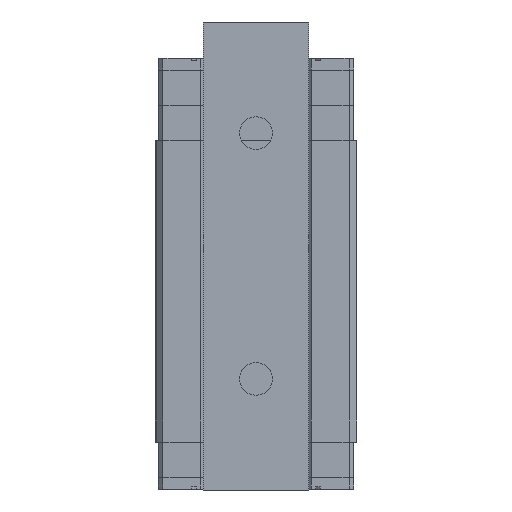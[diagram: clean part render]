
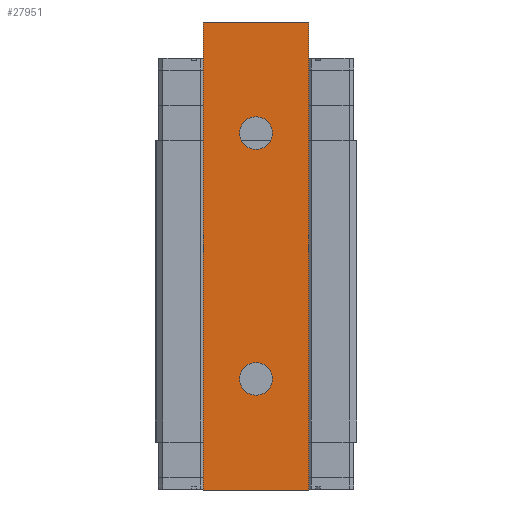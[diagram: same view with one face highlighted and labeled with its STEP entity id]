
A CAD part, front view. The second image highlights one B-rep face of the part: STEP entity #27951.
In plain terms, the highlighted planar face has unit normal (0, -1, 0).
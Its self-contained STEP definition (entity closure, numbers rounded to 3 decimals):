
#5 = VERTEX_POINT ( 'NONE', #15708 ) ;
#267 = FACE_BOUND ( 'NONE', #22539, .T. ) ;
#433 = CARTESIAN_POINT ( 'NONE',  ( 0., -9.5, -52.5 ) ) ;
#1485 = VERTEX_POINT ( 'NONE', #3153 ) ;
#1881 = DIRECTION ( 'NONE',  ( 0., 0., -1. ) ) ;
#2036 = DIRECTION ( 'NONE',  ( 1., 0., 0. ) ) ;
#2727 = VERTEX_POINT ( 'NONE', #8301 ) ;
#2849 = VECTOR ( 'NONE', #16073, 1000. ) ;
#3111 = VERTEX_POINT ( 'NONE', #3185 ) ;
#3146 = VECTOR ( 'NONE', #2036, 1000. ) ;
#3153 = CARTESIAN_POINT ( 'NONE',  ( 22.5, -9.5, 100. ) ) ;
#3185 = CARTESIAN_POINT ( 'NONE',  ( 0., -9.5, -59.5 ) ) ;
#4207 = CIRCLE ( 'NONE', #15553, 7. ) ;
#5469 = VERTEX_POINT ( 'NONE', #13261 ) ;
#6112 = EDGE_CURVE ( 'NONE', #1485, #5, #12810, .T. ) ;
#6120 = ORIENTED_EDGE ( 'NONE', *, *, #18844, .F. ) ;
#6534 = FACE_BOUND ( 'NONE', #7153, .T. ) ;
#6573 = ORIENTED_EDGE ( 'NONE', *, *, #6112, .F. ) ;
#6697 = DIRECTION ( 'NONE',  ( 0., 0., -1. ) ) ;
#7153 = EDGE_LOOP ( 'NONE', ( #16318, #21552 ) ) ;
#8301 = CARTESIAN_POINT ( 'NONE',  ( 0., -9.5, -45.5 ) ) ;
#9047 = FACE_OUTER_BOUND ( 'NONE', #27842, .T. ) ;
#9066 = CARTESIAN_POINT ( 'NONE',  ( -22.5, -9.5, 100. ) ) ;
#9920 = VECTOR ( 'NONE', #15997, 1000. ) ;
#11055 = DIRECTION ( 'NONE',  ( 0., -1., 0. ) ) ;
#11487 = DIRECTION ( 'NONE',  ( 0., 1., 0. ) ) ;
#12407 = VERTEX_POINT ( 'NONE', #14097 ) ;
#12573 = CIRCLE ( 'NONE', #19978, 7. ) ;
#12611 = CARTESIAN_POINT ( 'NONE',  ( 0., -9.5, 59.5 ) ) ;
#12810 = LINE ( 'NONE', #30035, #9920 ) ;
#13261 = CARTESIAN_POINT ( 'NONE',  ( -22.5, -9.5, -100. ) ) ;
#13609 = DIRECTION ( 'NONE',  ( 0., -1., 0. ) ) ;
#13760 = DIRECTION ( 'NONE',  ( 0., 0., 1. ) ) ;
#13957 = EDGE_CURVE ( 'NONE', #2727, #3111, #4207, .T. ) ;
#14097 = CARTESIAN_POINT ( 'NONE',  ( 0., -9.5, 45.5 ) ) ;
#14572 = DIRECTION ( 'NONE',  ( 0., 0., -1. ) ) ;
#14658 = CARTESIAN_POINT ( 'NONE',  ( 0., -9.5, 52.5 ) ) ;
#14704 = ORIENTED_EDGE ( 'NONE', *, *, #28043, .F. ) ;
#15137 = VERTEX_POINT ( 'NONE', #12611 ) ;
#15553 = AXIS2_PLACEMENT_3D ( 'NONE', #22981, #13609, #15893 ) ;
#15708 = CARTESIAN_POINT ( 'NONE',  ( 22.5, -9.5, -100. ) ) ;
#15893 = DIRECTION ( 'NONE',  ( 0., 0., -1. ) ) ;
#15976 = CARTESIAN_POINT ( 'NONE',  ( -22.5, -9.5, 100. ) ) ;
#15997 = DIRECTION ( 'NONE',  ( 0., 0., -1. ) ) ;
#16073 = DIRECTION ( 'NONE',  ( 0., 0., -1. ) ) ;
#16218 = CARTESIAN_POINT ( 'NONE',  ( -22.5, -9.5, 100. ) ) ;
#16318 = ORIENTED_EDGE ( 'NONE', *, *, #28366, .F. ) ;
#16630 = EDGE_CURVE ( 'NONE', #25989, #1485, #19558, .T. ) ;
#18111 = PLANE ( 'NONE',  #23828 ) ;
#18582 = ORIENTED_EDGE ( 'NONE', *, *, #16630, .F. ) ;
#18844 = EDGE_CURVE ( 'NONE', #12407, #15137, #12573, .T. ) ;
#19009 = VECTOR ( 'NONE', #21104, 1000. ) ;
#19558 = LINE ( 'NONE', #15976, #3146 ) ;
#19867 = EDGE_CURVE ( 'NONE', #25989, #5469, #27702, .T. ) ;
#19978 = AXIS2_PLACEMENT_3D ( 'NONE', #25146, #11055, #1881 ) ;
#21028 = CIRCLE ( 'NONE', #23587, 7. ) ;
#21104 = DIRECTION ( 'NONE',  ( 1., 0., 0. ) ) ;
#21281 = AXIS2_PLACEMENT_3D ( 'NONE', #14658, #26517, #14572 ) ;
#21552 = ORIENTED_EDGE ( 'NONE', *, *, #13957, .F. ) ;
#22539 = EDGE_LOOP ( 'NONE', ( #6120, #14704 ) ) ;
#22981 = CARTESIAN_POINT ( 'NONE',  ( 0., -9.5, -52.5 ) ) ;
#23587 = AXIS2_PLACEMENT_3D ( 'NONE', #433, #29957, #6697 ) ;
#23828 = AXIS2_PLACEMENT_3D ( 'NONE', #27751, #11487, #13760 ) ;
#24997 = EDGE_CURVE ( 'NONE', #5469, #5, #25238, .T. ) ;
#25146 = CARTESIAN_POINT ( 'NONE',  ( 0., -9.5, 52.5 ) ) ;
#25238 = LINE ( 'NONE', #30306, #19009 ) ;
#25989 = VERTEX_POINT ( 'NONE', #16218 ) ;
#26517 = DIRECTION ( 'NONE',  ( 0., -1., 0. ) ) ;
#27145 = ORIENTED_EDGE ( 'NONE', *, *, #19867, .T. ) ;
#27702 = LINE ( 'NONE', #9066, #2849 ) ;
#27751 = CARTESIAN_POINT ( 'NONE',  ( -22.5, -9.5, 100. ) ) ;
#27842 = EDGE_LOOP ( 'NONE', ( #27145, #28746, #6573, #18582 ) ) ;
#27951 = ADVANCED_FACE ( 'NONE', ( #6534, #267, #9047 ), #18111, .F. ) ;
#28043 = EDGE_CURVE ( 'NONE', #15137, #12407, #30230, .T. ) ;
#28366 = EDGE_CURVE ( 'NONE', #3111, #2727, #21028, .T. ) ;
#28746 = ORIENTED_EDGE ( 'NONE', *, *, #24997, .T. ) ;
#29957 = DIRECTION ( 'NONE',  ( 0., -1., 0. ) ) ;
#30035 = CARTESIAN_POINT ( 'NONE',  ( 22.5, -9.5, 100. ) ) ;
#30230 = CIRCLE ( 'NONE', #21281, 7. ) ;
#30306 = CARTESIAN_POINT ( 'NONE',  ( -22.5, -9.5, -100. ) ) ;
